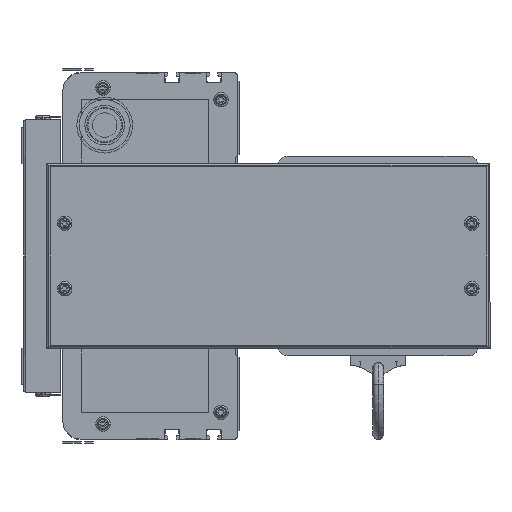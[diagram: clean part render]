
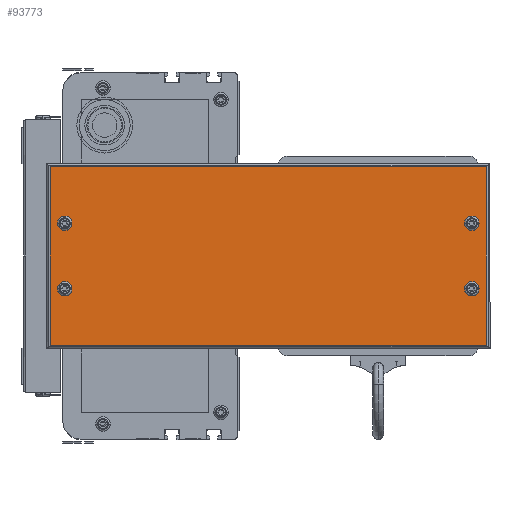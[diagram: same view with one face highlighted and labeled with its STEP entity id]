
A CAD part, left-side view. The second image highlights one B-rep face of the part: STEP entity #93773.
In plain terms, the highlighted planar face has unit normal (-1, 0, 0) as drawn and (1, 0, 0) by its records, which use the part's own axes.
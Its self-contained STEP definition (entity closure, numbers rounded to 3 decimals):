
#93522 = ORIENTED_EDGE ( 'NONE', *, *, #93659, .F. ) ;
#93559 = ORIENTED_EDGE ( 'NONE', *, *, #93616, .F. ) ;
#93560 = VERTEX_POINT ( 'NONE', #156715 ) ;
#93598 = VERTEX_POINT ( 'NONE', #156760 ) ;
#93602 = VERTEX_POINT ( 'NONE', #156864 ) ;
#93616 = EDGE_CURVE ( 'NONE', #93699, #93598, #157066, .T. ) ;
#93621 = EDGE_CURVE ( 'NONE', #93747, #93737, #157007, .T. ) ;
#93653 = VERTEX_POINT ( 'NONE', #157507 ) ;
#93659 = EDGE_CURVE ( 'NONE', #93737, #93747, #157469, .T. ) ;
#93698 = ORIENTED_EDGE ( 'NONE', *, *, #93769, .T. ) ;
#93699 = VERTEX_POINT ( 'NONE', #157687 ) ;
#93700 = VERTEX_POINT ( 'NONE', #157703 ) ;
#93701 = EDGE_CURVE ( 'NONE', #93602, #93700, #157638, .T. ) ;
#93704 = ORIENTED_EDGE ( 'NONE', *, *, #93621, .F. ) ;
#93728 = EDGE_CURVE ( 'NONE', #93653, #93751, #157821, .T. ) ;
#93732 = VERTEX_POINT ( 'NONE', #157865 ) ;
#93733 = VERTEX_POINT ( 'NONE', #157813 ) ;
#93737 = VERTEX_POINT ( 'NONE', #157802 ) ;
#93742 = EDGE_CURVE ( 'NONE', #93774, #93732, #157859, .T. ) ;
#93743 = EDGE_CURVE ( 'NONE', #93700, #93602, #157960, .T. ) ;
#93744 = ORIENTED_EDGE ( 'NONE', *, *, #93742, .T. ) ;
#93745 = EDGE_LOOP ( 'NONE', ( #93791, #93559 ) ) ;
#93746 = EDGE_LOOP ( 'NONE', ( #93788, #93777 ) ) ;
#93747 = VERTEX_POINT ( 'NONE', #157962 ) ;
#93749 = ORIENTED_EDGE ( 'NONE', *, *, #93743, .F. ) ;
#93751 = VERTEX_POINT ( 'NONE', #157831 ) ;
#93761 = EDGE_CURVE ( 'NONE', #93732, #93733, #158068, .T. ) ;
#93767 = EDGE_LOOP ( 'NONE', ( #93749, #93770 ) ) ;
#93768 = ORIENTED_EDGE ( 'NONE', *, *, #93776, .T. ) ;
#93769 = EDGE_CURVE ( 'NONE', #93560, #93774, #158003, .T. ) ;
#93770 = ORIENTED_EDGE ( 'NONE', *, *, #93701, .F. ) ;
#93773 = ADVANCED_FACE ( 'NONE', ( #158056, #158036, #158009, #157989, #158191 ), #158039, .F. ) ;
#93774 = VERTEX_POINT ( 'NONE', #158193 ) ;
#93775 = ORIENTED_EDGE ( 'NONE', *, *, #93761, .T. ) ;
#93776 = EDGE_CURVE ( 'NONE', #93733, #93560, #158160, .T. ) ;
#93777 = ORIENTED_EDGE ( 'NONE', *, *, #93728, .F. ) ;
#93787 = EDGE_CURVE ( 'NONE', #93598, #93699, #155775, .T. ) ;
#93788 = ORIENTED_EDGE ( 'NONE', *, *, #93790, .F. ) ;
#93789 = EDGE_LOOP ( 'NONE', ( #93704, #93522 ) ) ;
#93790 = EDGE_CURVE ( 'NONE', #93751, #93653, #156644, .T. ) ;
#93791 = ORIENTED_EDGE ( 'NONE', *, *, #93787, .F. ) ;
#93793 = EDGE_LOOP ( 'NONE', ( #93775, #93768, #93698, #93744 ) ) ;
#155372 = CARTESIAN_POINT ( 'NONE',  ( 50., 10., -33. ) ) ;
#155565 = DIRECTION ( 'NONE',  ( 1., 0., 0. ) ) ;
#155569 = AXIS2_PLACEMENT_3D ( 'NONE', #155372, #155565, #155773 ) ;
#155773 = DIRECTION ( 'NONE',  ( 0., 0., -1. ) ) ;
#155775 = CIRCLE ( 'NONE', #155569, 2.5 ) ;
#156637 = DIRECTION ( 'NONE',  ( 0., 0., -1. ) ) ;
#156644 = CIRCLE ( 'NONE', #156648, 2.5 ) ;
#156648 = AXIS2_PLACEMENT_3D ( 'NONE', #156673, #156665, #156637 ) ;
#156665 = DIRECTION ( 'NONE',  ( 1., 0., 0. ) ) ;
#156673 = CARTESIAN_POINT ( 'NONE',  ( 50., 234., -69. ) ) ;
#156715 = CARTESIAN_POINT ( 'NONE',  ( 50., 2., -100. ) ) ;
#156760 = CARTESIAN_POINT ( 'NONE',  ( 50., 10., -35.5 ) ) ;
#156864 = CARTESIAN_POINT ( 'NONE',  ( 50., 10., -66.5 ) ) ;
#157000 = CARTESIAN_POINT ( 'NONE',  ( 50., 234., -33. ) ) ;
#157007 = CIRCLE ( 'NONE', #157009, 2.5 ) ;
#157009 = AXIS2_PLACEMENT_3D ( 'NONE', #157000, #157287, #157284 ) ;
#157066 = CIRCLE ( 'NONE', #157352, 2.5 ) ;
#157284 = DIRECTION ( 'NONE',  ( 0., 0., -1. ) ) ;
#157287 = DIRECTION ( 'NONE',  ( 1., 0., 0. ) ) ;
#157345 = DIRECTION ( 'NONE',  ( 0., 0., -1. ) ) ;
#157347 = DIRECTION ( 'NONE',  ( 1., 0., 0. ) ) ;
#157351 = CARTESIAN_POINT ( 'NONE',  ( 50., 10., -33. ) ) ;
#157352 = AXIS2_PLACEMENT_3D ( 'NONE', #157351, #157347, #157345 ) ;
#157445 = DIRECTION ( 'NONE',  ( 0., 0., -1. ) ) ;
#157447 = DIRECTION ( 'NONE',  ( 1., 0., 0. ) ) ;
#157450 = CARTESIAN_POINT ( 'NONE',  ( 50., 234., -33. ) ) ;
#157469 = CIRCLE ( 'NONE', #157492, 2.5 ) ;
#157492 = AXIS2_PLACEMENT_3D ( 'NONE', #157450, #157447, #157445 ) ;
#157507 = CARTESIAN_POINT ( 'NONE',  ( 50., 234., -66.5 ) ) ;
#157630 = DIRECTION ( 'NONE',  ( 0., 0., -1. ) ) ;
#157633 = DIRECTION ( 'NONE',  ( 1., 0., 0. ) ) ;
#157635 = AXIS2_PLACEMENT_3D ( 'NONE', #157685, #157633, #157630 ) ;
#157638 = CIRCLE ( 'NONE', #157635, 2.5 ) ;
#157685 = CARTESIAN_POINT ( 'NONE',  ( 50., 10., -69. ) ) ;
#157687 = CARTESIAN_POINT ( 'NONE',  ( 50., 10., -30.5 ) ) ;
#157703 = CARTESIAN_POINT ( 'NONE',  ( 50., 10., -71.5 ) ) ;
#157802 = CARTESIAN_POINT ( 'NONE',  ( 50., 234., -30.5 ) ) ;
#157813 = CARTESIAN_POINT ( 'NONE',  ( 50., 2., -2. ) ) ;
#157817 = DIRECTION ( 'NONE',  ( 0., 0., -1. ) ) ;
#157820 = AXIS2_PLACEMENT_3D ( 'NONE', #157840, #157836, #157817 ) ;
#157821 = CIRCLE ( 'NONE', #157820, 2.5 ) ;
#157825 = AXIS2_PLACEMENT_3D ( 'NONE', #157944, #157943, #157941 ) ;
#157831 = CARTESIAN_POINT ( 'NONE',  ( 50., 234., -71.5 ) ) ;
#157836 = DIRECTION ( 'NONE',  ( 1., 0., 0. ) ) ;
#157840 = CARTESIAN_POINT ( 'NONE',  ( 50., 234., -69. ) ) ;
#157858 = CARTESIAN_POINT ( 'NONE',  ( 50., 242., 0. ) ) ;
#157859 = LINE ( 'NONE', #157858, #157978 ) ;
#157865 = CARTESIAN_POINT ( 'NONE',  ( 50., 242., -2. ) ) ;
#157941 = DIRECTION ( 'NONE',  ( 0., 0., -1. ) ) ;
#157943 = DIRECTION ( 'NONE',  ( 1., 0., 0. ) ) ;
#157944 = CARTESIAN_POINT ( 'NONE',  ( 50., 10., -69. ) ) ;
#157957 = DIRECTION ( 'NONE',  ( 0., 0., 1. ) ) ;
#157960 = CIRCLE ( 'NONE', #157825, 2.5 ) ;
#157962 = CARTESIAN_POINT ( 'NONE',  ( 50., 234., -35.5 ) ) ;
#157978 = VECTOR ( 'NONE', #157957, 1000. ) ;
#157989 = FACE_BOUND ( 'NONE', #93746, .T. ) ;
#157991 = AXIS2_PLACEMENT_3D ( 'NONE', #158189, #158157, #158155 ) ;
#157996 = DIRECTION ( 'NONE',  ( 0., 1., 0. ) ) ;
#157997 = VECTOR ( 'NONE', #157996, 1000. ) ;
#158000 = CARTESIAN_POINT ( 'NONE',  ( 50., 244., -100. ) ) ;
#158003 = LINE ( 'NONE', #158000, #157997 ) ;
#158009 = FACE_BOUND ( 'NONE', #93745, .T. ) ;
#158036 = FACE_BOUND ( 'NONE', #93767, .T. ) ;
#158039 = PLANE ( 'NONE',  #157991 ) ;
#158044 = DIRECTION ( 'NONE',  ( 0., -1., 0. ) ) ;
#158046 = VECTOR ( 'NONE', #158044, 1000. ) ;
#158056 = FACE_OUTER_BOUND ( 'NONE', #93793, .T. ) ;
#158067 = CARTESIAN_POINT ( 'NONE',  ( 50., 244., -2. ) ) ;
#158068 = LINE ( 'NONE', #158067, #158046 ) ;
#158142 = DIRECTION ( 'NONE',  ( 0., 0., -1. ) ) ;
#158143 = VECTOR ( 'NONE', #158142, 1000. ) ;
#158145 = CARTESIAN_POINT ( 'NONE',  ( 50., 2., 0. ) ) ;
#158155 = DIRECTION ( 'NONE',  ( 0., 0., 1. ) ) ;
#158157 = DIRECTION ( 'NONE',  ( -1., 0., 0. ) ) ;
#158160 = LINE ( 'NONE', #158145, #158143 ) ;
#158189 = CARTESIAN_POINT ( 'NONE',  ( 50., 244., 0. ) ) ;
#158191 = FACE_BOUND ( 'NONE', #93789, .T. ) ;
#158193 = CARTESIAN_POINT ( 'NONE',  ( 50., 242., -100. ) ) ;
